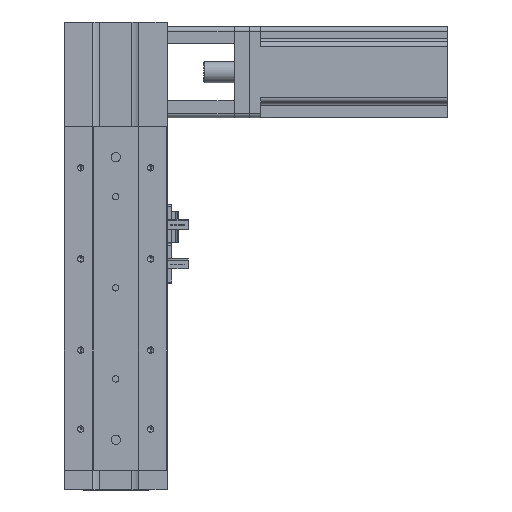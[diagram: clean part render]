
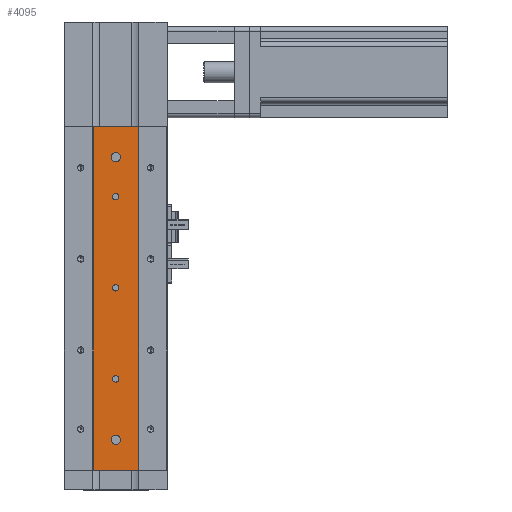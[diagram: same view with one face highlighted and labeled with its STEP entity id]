
A CAD part, front view. The second image highlights one B-rep face of the part: STEP entity #4095.
In plain terms, the highlighted planar face has unit normal (0, -1, 0).
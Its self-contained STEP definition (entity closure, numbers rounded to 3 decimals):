
#1413 = CARTESIAN_POINT ( 'NONE',  ( 0., -9.34, 122.1 ) ) ;
#1484 = CARTESIAN_POINT ( 'NONE',  ( 0., -9.34, 62.1 ) ) ;
#3433 = CARTESIAN_POINT ( 'NONE',  ( 0., -9.34, 180. ) ) ;
#3852 = FACE_BOUND ( 'NONE', #22472, .T. ) ;
#4095 = ADVANCED_FACE ( 'NONE', ( #29200, #21159, #37768, #20708, #12260, #3852 ), #7564, .F. ) ;
#4373 = VECTOR ( 'NONE', #32107, 1000. ) ;
#4385 = DIRECTION ( 'NONE',  ( -1., 0., 0. ) ) ;
#4443 = DIRECTION ( 'NONE',  ( 0., -1., 0. ) ) ;
#4498 = CARTESIAN_POINT ( 'NONE',  ( 0., -9.34, 209. ) ) ;
#4658 = DIRECTION ( 'NONE',  ( 0., 1., 0. ) ) ;
#4694 = CIRCLE ( 'NONE', #15764, 2.1 ) ;
#4935 = CARTESIAN_POINT ( 'NONE',  ( -14.947, -9.34, 226. ) ) ;
#5377 = AXIS2_PLACEMENT_3D ( 'NONE', #7331, #29571, #10486 ) ;
#5612 = EDGE_CURVE ( 'NONE', #23836, #12944, #41089, .T. ) ;
#6242 = EDGE_CURVE ( 'NONE', #31064, #31078, #18865, .T. ) ;
#6574 = VECTOR ( 'NONE', #18841, 1000. ) ;
#6624 = DIRECTION ( 'NONE',  ( -1., 0., 0. ) ) ;
#7331 = CARTESIAN_POINT ( 'NONE',  ( 0., -9.34, 20. ) ) ;
#7564 = PLANE ( 'NONE',  #24265 ) ;
#7643 = AXIS2_PLACEMENT_3D ( 'NONE', #35310, #16131, #38542 ) ;
#7857 = CARTESIAN_POINT ( 'NONE',  ( 0., -9.34, 57.9 ) ) ;
#8945 = CIRCLE ( 'NONE', #36443, 2.1 ) ;
#9045 = DIRECTION ( 'NONE',  ( 0., 0., -1. ) ) ;
#9512 = DIRECTION ( 'NONE',  ( 0., 1., 0. ) ) ;
#10486 = DIRECTION ( 'NONE',  ( 0., 0., -1. ) ) ;
#10836 = CARTESIAN_POINT ( 'NONE',  ( 0., -9.34, 20. ) ) ;
#11192 = VERTEX_POINT ( 'NONE', #11344 ) ;
#11344 = CARTESIAN_POINT ( 'NONE',  ( 14.947, -9.34, 0. ) ) ;
#11735 = ORIENTED_EDGE ( 'NONE', *, *, #15408, .F. ) ;
#11865 = ORIENTED_EDGE ( 'NONE', *, *, #28083, .T. ) ;
#11956 = ORIENTED_EDGE ( 'NONE', *, *, #12502, .T. ) ;
#12260 = FACE_OUTER_BOUND ( 'NONE', #15029, .T. ) ;
#12352 = CARTESIAN_POINT ( 'NONE',  ( 0., -9.34, 117.9 ) ) ;
#12454 = CARTESIAN_POINT ( 'NONE',  ( -14.947, -9.34, 226. ) ) ;
#12492 = DIRECTION ( 'NONE',  ( 0., 1., 0. ) ) ;
#12502 = EDGE_CURVE ( 'NONE', #37754, #41235, #37680, .T. ) ;
#12944 = VERTEX_POINT ( 'NONE', #31656 ) ;
#13005 = CARTESIAN_POINT ( 'NONE',  ( 0., -9.34, 203. ) ) ;
#14005 = DIRECTION ( 'NONE',  ( 0., 0., -1. ) ) ;
#14008 = ORIENTED_EDGE ( 'NONE', *, *, #34695, .F. ) ;
#14131 = VERTEX_POINT ( 'NONE', #29911 ) ;
#14312 = AXIS2_PLACEMENT_3D ( 'NONE', #18834, #41327, #22062 ) ;
#15029 = EDGE_LOOP ( 'NONE', ( #39670, #11735, #34401, #21673 ) ) ;
#15408 = EDGE_CURVE ( 'NONE', #37134, #11192, #36111, .T. ) ;
#15502 = EDGE_CURVE ( 'NONE', #31078, #31064, #4694, .T. ) ;
#15764 = AXIS2_PLACEMENT_3D ( 'NONE', #28572, #9512, #31781 ) ;
#16131 = DIRECTION ( 'NONE',  ( 0., -1., 0. ) ) ;
#16731 = CARTESIAN_POINT ( 'NONE',  ( 0., -9.34, 120. ) ) ;
#16861 = AXIS2_PLACEMENT_3D ( 'NONE', #31598, #12492, #34845 ) ;
#17030 = DIRECTION ( 'NONE',  ( 0., 1., 0. ) ) ;
#17094 = VERTEX_POINT ( 'NONE', #4498 ) ;
#17873 = AXIS2_PLACEMENT_3D ( 'NONE', #10836, #33150, #14005 ) ;
#18046 = EDGE_CURVE ( 'NONE', #29718, #40364, #33785, .T. ) ;
#18260 = DIRECTION ( 'NONE',  ( 0., 0., -1. ) ) ;
#18520 = ORIENTED_EDGE ( 'NONE', *, *, #5612, .T. ) ;
#18834 = CARTESIAN_POINT ( 'NONE',  ( 0., -9.34, 60. ) ) ;
#18841 = DIRECTION ( 'NONE',  ( 1., 0., 0. ) ) ;
#18865 = CIRCLE ( 'NONE', #14312, 2.1 ) ;
#19566 = CIRCLE ( 'NONE', #17873, 3. ) ;
#19915 = DIRECTION ( 'NONE',  ( -1., 0., 0. ) ) ;
#19971 = CIRCLE ( 'NONE', #34976, 2.1 ) ;
#19984 = EDGE_CURVE ( 'NONE', #12944, #23836, #8945, .T. ) ;
#20708 = FACE_BOUND ( 'NONE', #24578, .T. ) ;
#21159 = FACE_BOUND ( 'NONE', #30664, .T. ) ;
#21432 = CARTESIAN_POINT ( 'NONE',  ( 0., -9.34, 23. ) ) ;
#21450 = CARTESIAN_POINT ( 'NONE',  ( 14.947, -9.34, 226. ) ) ;
#21673 = ORIENTED_EDGE ( 'NONE', *, *, #21823, .T. ) ;
#21823 = EDGE_CURVE ( 'NONE', #14131, #39923, #26129, .T. ) ;
#22062 = DIRECTION ( 'NONE',  ( -1., 0., 0. ) ) ;
#22192 = ORIENTED_EDGE ( 'NONE', *, *, #30471, .F. ) ;
#22472 = EDGE_LOOP ( 'NONE', ( #28435, #18520 ) ) ;
#23464 = CARTESIAN_POINT ( 'NONE',  ( 0., -9.34, 206. ) ) ;
#23828 = CARTESIAN_POINT ( 'NONE',  ( 14.947, -9.34, 226. ) ) ;
#23836 = VERTEX_POINT ( 'NONE', #32442 ) ;
#24265 = AXIS2_PLACEMENT_3D ( 'NONE', #4935, #4658, #4385 ) ;
#24480 = LINE ( 'NONE', #12454, #6574 ) ;
#24578 = EDGE_LOOP ( 'NONE', ( #34236, #29877 ) ) ;
#25669 = DIRECTION ( 'NONE',  ( 0., 1., 0. ) ) ;
#25715 = CARTESIAN_POINT ( 'NONE',  ( -14.947, -9.34, 0. ) ) ;
#25836 = CARTESIAN_POINT ( 'NONE',  ( 0., -9.34, 17. ) ) ;
#26129 = LINE ( 'NONE', #37651, #34637 ) ;
#26508 = EDGE_LOOP ( 'NONE', ( #11956, #11865 ) ) ;
#26714 = DIRECTION ( 'NONE',  ( 0., 0., -1. ) ) ;
#27548 = ORIENTED_EDGE ( 'NONE', *, *, #38770, .F. ) ;
#27591 = VECTOR ( 'NONE', #18260, 1000. ) ;
#28006 = EDGE_LOOP ( 'NONE', ( #27548, #22192 ) ) ;
#28083 = EDGE_CURVE ( 'NONE', #41235, #37754, #19971, .T. ) ;
#28435 = ORIENTED_EDGE ( 'NONE', *, *, #19984, .T. ) ;
#28572 = CARTESIAN_POINT ( 'NONE',  ( 0., -9.34, 60. ) ) ;
#28636 = CARTESIAN_POINT ( 'NONE',  ( -14.947, -9.34, 0. ) ) ;
#28713 = AXIS2_PLACEMENT_3D ( 'NONE', #23464, #4443, #26714 ) ;
#28789 = AXIS2_PLACEMENT_3D ( 'NONE', #16731, #39174, #19915 ) ;
#28843 = CIRCLE ( 'NONE', #7643, 3. ) ;
#29200 = FACE_BOUND ( 'NONE', #28006, .T. ) ;
#29571 = DIRECTION ( 'NONE',  ( 0., -1., 0. ) ) ;
#29718 = VERTEX_POINT ( 'NONE', #21432 ) ;
#29877 = ORIENTED_EDGE ( 'NONE', *, *, #15502, .T. ) ;
#29911 = CARTESIAN_POINT ( 'NONE',  ( -14.947, -9.34, 226. ) ) ;
#30471 = EDGE_CURVE ( 'NONE', #17094, #35149, #33634, .T. ) ;
#30664 = EDGE_LOOP ( 'NONE', ( #14008, #38445 ) ) ;
#31064 = VERTEX_POINT ( 'NONE', #1484 ) ;
#31078 = VERTEX_POINT ( 'NONE', #7857 ) ;
#31598 = CARTESIAN_POINT ( 'NONE',  ( 0., -9.34, 180. ) ) ;
#31656 = CARTESIAN_POINT ( 'NONE',  ( 0., -9.34, 182.1 ) ) ;
#31781 = DIRECTION ( 'NONE',  ( -1., 0., 0. ) ) ;
#32107 = DIRECTION ( 'NONE',  ( 1., 0., 0. ) ) ;
#32442 = CARTESIAN_POINT ( 'NONE',  ( 0., -9.34, 177.9 ) ) ;
#33150 = DIRECTION ( 'NONE',  ( 0., -1., 0. ) ) ;
#33437 = EDGE_CURVE ( 'NONE', #39923, #11192, #38302, .T. ) ;
#33634 = CIRCLE ( 'NONE', #28713, 3. ) ;
#33785 = CIRCLE ( 'NONE', #5377, 3. ) ;
#34236 = ORIENTED_EDGE ( 'NONE', *, *, #6242, .T. ) ;
#34401 = ORIENTED_EDGE ( 'NONE', *, *, #38004, .F. ) ;
#34637 = VECTOR ( 'NONE', #9045, 1000. ) ;
#34695 = EDGE_CURVE ( 'NONE', #40364, #29718, #19566, .T. ) ;
#34845 = DIRECTION ( 'NONE',  ( -1., 0., 0. ) ) ;
#34976 = AXIS2_PLACEMENT_3D ( 'NONE', #36228, #17030, #39472 ) ;
#35149 = VERTEX_POINT ( 'NONE', #13005 ) ;
#35310 = CARTESIAN_POINT ( 'NONE',  ( 0., -9.34, 206. ) ) ;
#36111 = LINE ( 'NONE', #21450, #27591 ) ;
#36228 = CARTESIAN_POINT ( 'NONE',  ( 0., -9.34, 120. ) ) ;
#36443 = AXIS2_PLACEMENT_3D ( 'NONE', #3433, #25669, #6624 ) ;
#37134 = VERTEX_POINT ( 'NONE', #23828 ) ;
#37651 = CARTESIAN_POINT ( 'NONE',  ( -14.947, -9.34, 226. ) ) ;
#37680 = CIRCLE ( 'NONE', #28789, 2.1 ) ;
#37754 = VERTEX_POINT ( 'NONE', #1413 ) ;
#37768 = FACE_BOUND ( 'NONE', #26508, .T. ) ;
#38004 = EDGE_CURVE ( 'NONE', #14131, #37134, #24480, .T. ) ;
#38302 = LINE ( 'NONE', #25715, #4373 ) ;
#38445 = ORIENTED_EDGE ( 'NONE', *, *, #18046, .F. ) ;
#38542 = DIRECTION ( 'NONE',  ( 0., 0., -1. ) ) ;
#38770 = EDGE_CURVE ( 'NONE', #35149, #17094, #28843, .T. ) ;
#39174 = DIRECTION ( 'NONE',  ( 0., 1., 0. ) ) ;
#39472 = DIRECTION ( 'NONE',  ( -1., 0., 0. ) ) ;
#39670 = ORIENTED_EDGE ( 'NONE', *, *, #33437, .T. ) ;
#39923 = VERTEX_POINT ( 'NONE', #28636 ) ;
#40364 = VERTEX_POINT ( 'NONE', #25836 ) ;
#41089 = CIRCLE ( 'NONE', #16861, 2.1 ) ;
#41235 = VERTEX_POINT ( 'NONE', #12352 ) ;
#41327 = DIRECTION ( 'NONE',  ( 0., 1., 0. ) ) ;
